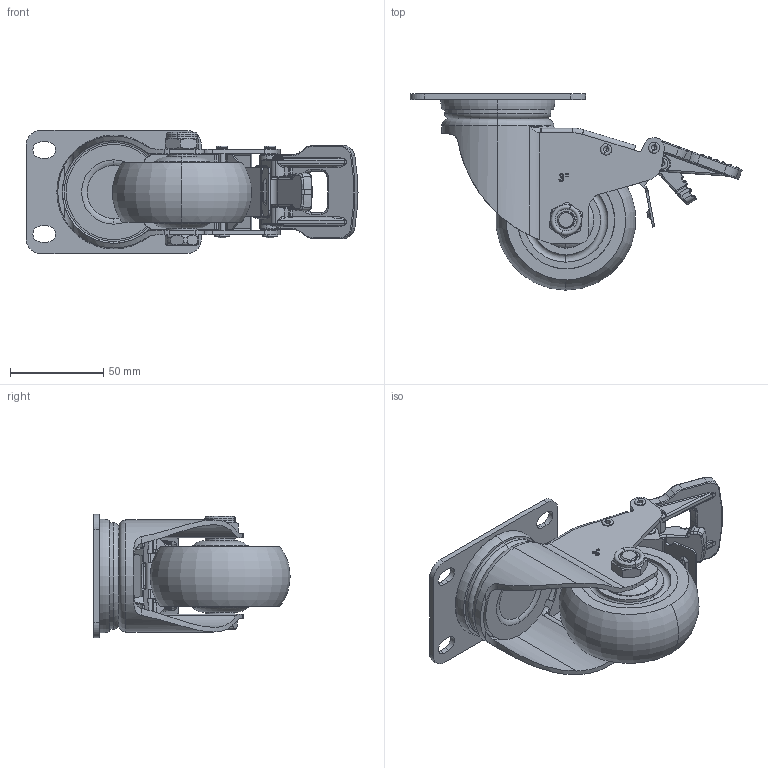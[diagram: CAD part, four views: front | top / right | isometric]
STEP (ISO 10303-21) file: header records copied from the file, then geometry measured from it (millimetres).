
FILE_DESCRIPTION (( 'STEP AP203' ), '1' );
FILE_NAME ('3寸平底万向刹车.STEP', '2024-03-19T03:36:51', ( '微软用户' ), ( '微软中国' ), 'SwSTEP 2.0', 'SolidWorks 2008', '' );
FILE_SCHEMA (( 'CONFIG_CONTROL_DESIGN' ));
Length unit declared in the file: millimetre
Products named in the file (13): 2023-3-8  中型3寸（AB刹）支架B_默认; 2023-3-15 3寸刹车片 B_默认; 3.9｡ﾁ49ﾎｲｿﾗｶ､_ﾄｬﾈﾏ; 3.9｡ﾁ39ﾎｲｿﾗｶ､_ﾄｬﾈﾏ; 3渡す菁勀砃价陬; M10-55蹟裝; M10蹟譫; 刹车手柄ON_默认; 解刹手柄OFF   B_默认; 3.9｡ﾁ30ﾎｲｿﾗｶ､_ﾄｬﾈﾏ; 40.2mm中型中管_默认; 底板_默认; 中型3寸轮_默认
Assembly tree (13 placements, depth 2):
  3渡す菁勀砃价陬
    刹车手柄ON_默认
    解刹手柄OFF   B_默认
    2023-3-8  中型3寸（AB刹）支架B_默认
    M10-55蹟裝
    M10蹟譫
    中型3寸轮_默认
    3.9｡ﾁ30ﾎｲｿﾗｶ､_ﾄｬﾈﾏ
    40.2mm中型中管_默认
    3.9｡ﾁ49ﾎｲｿﾗｶ､_ﾄｬﾈﾏ  x2
    2023-3-15 3寸刹车片 B_默认
    3.9｡ﾁ39ﾎｲｿﾗｶ､_ﾄｬﾈﾏ
    底板_默认
Bounding box: 177.78 x 105.11 x 66 mm (x, y, z)
Volume: 247189 mm3; surface area: 91981 mm2
Topology: 13 solids, 13 shells, 1337 faces, 3343 edges, 2049 vertices
Faces by surface type: cylinder 537, plane 349, bspline 297, torus 106, cone 34, sphere 14
Entity records: 54488 total; most frequent: CARTESIAN_POINT 23967, ORIENTED_EDGE 6544, DIRECTION 5512, EDGE_CURVE 3272, AXIS2_PLACEMENT_3D 2067, VERTEX_POINT 2027, EDGE_LOOP 1421, VECTOR 1378
